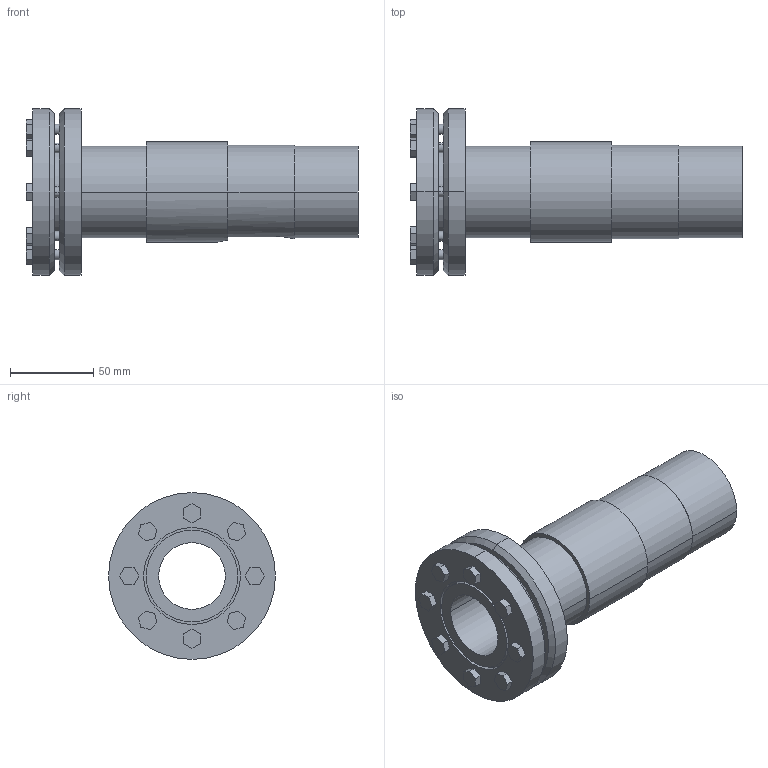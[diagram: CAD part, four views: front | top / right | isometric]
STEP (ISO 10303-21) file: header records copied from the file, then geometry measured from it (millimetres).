
FILE_DESCRIPTION((''),'2;1');
FILE_NAME('CALST5','2015-07-13T',('StemBG2'),(''),'PRO/ENGINEER BY PARAMETRIC TECHNOLOGY CORPORATION, 2008020','PRO/ENGINEER BY PARAMETRIC TECHNOLOGY CORPORATION, 2008020','');
FILE_SCHEMA(('AUTOMOTIVE_DESIGN_CC2 { 1 2 10303 214 -1 1 5 2 }'));
Length unit declared in the file: millimetre
Products named in the file (1): CALST5
Bounding box: 199 x 100 x 100 mm (x, y, z)
Volume: 381648.8 mm3; surface area: 89922.7 mm2
Topology: 1 solids, 1 shells, 135 faces, 326 edges, 216 vertices
Faces by surface type: plane 77, cylinder 54, cone 4
Entity records: 5047 total; most frequent: CARTESIAN_POINT 723, DIRECTION 704, ORIENTED_EDGE 652, PRESENTATION_STYLE_ASSIGNMENT 327, STYLED_ITEM 327, CURVE_STYLE 326, EDGE_CURVE 326, AXIS2_PLACEMENT_3D 247
